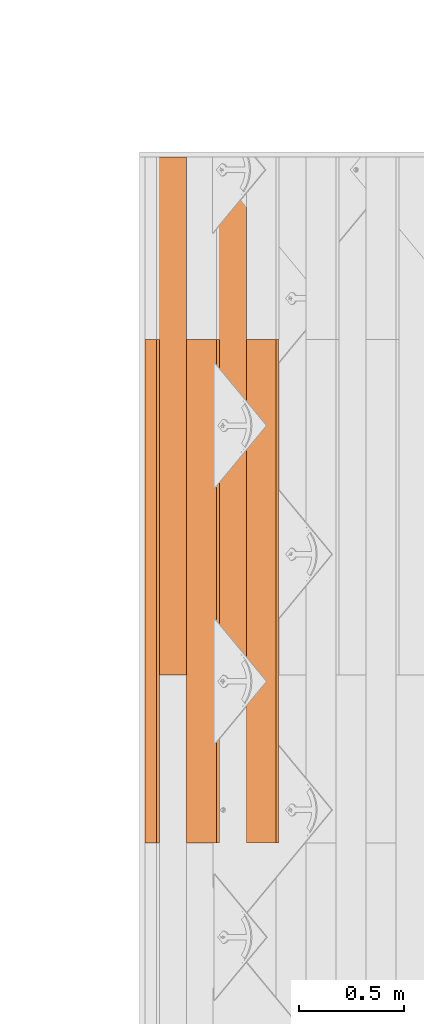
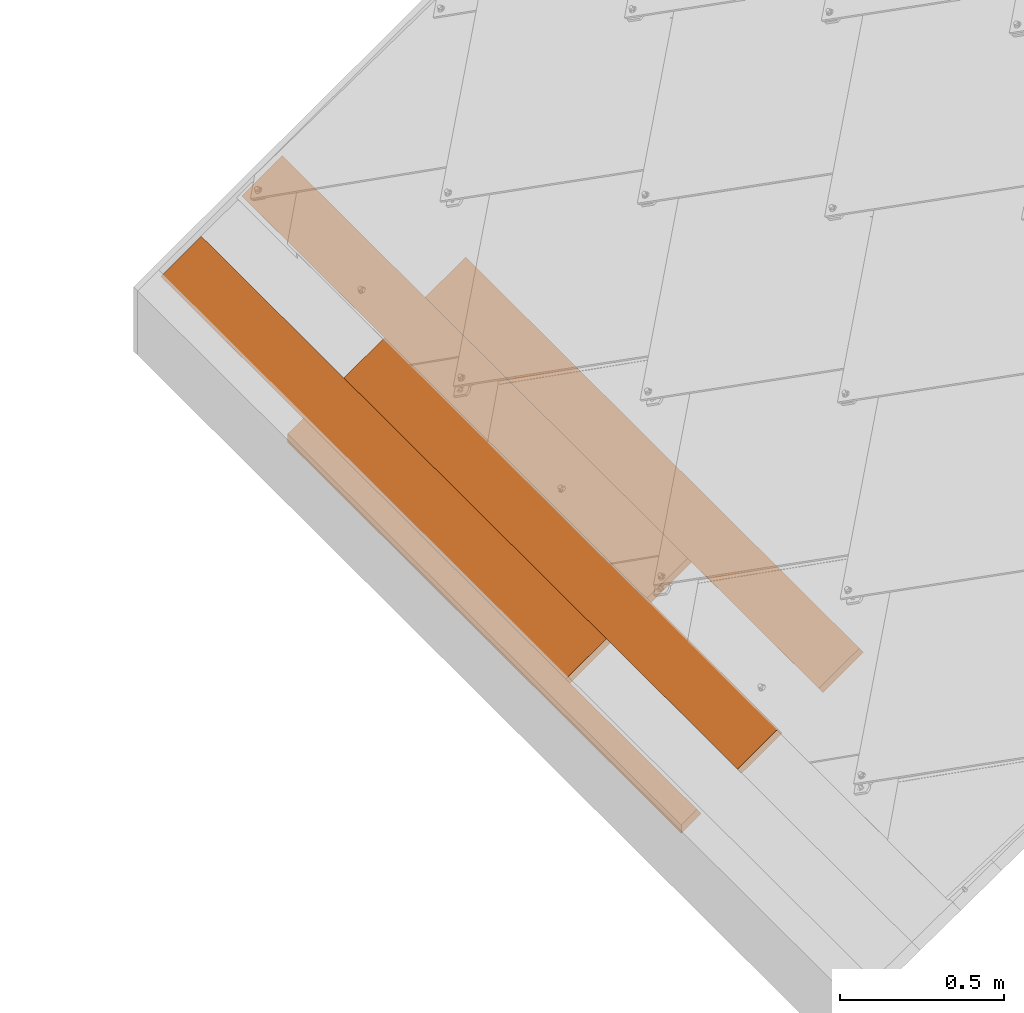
# One storey, part 51 of 133: 5 proxies, 1 element without a shape of its own.
"""IFC2X3 building model written with IfcOpenShell, lengths in millimetres."""

from ifc_helpers import new_model, entity, si_unit, converted_unit, derived_unit, direction, frame, frame_2d, origin, place, context, subcontext, project, spatial, polyline, rectangle, outline, extrude, source, transform, mapped, material, type_object, type_shapes, element, aggregate, save


model = new_model("IFC2X3")

# Units and contexts
model_context = context("Model", 3, precision=0.01, world=origin(), true_north=direction((6.12303176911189e-17, 1.0)))
body_context = subcontext(model_context, "Body", "Model", "MODEL_VIEW")
ifc_project = project(units=[si_unit("LENGTHUNIT", "METRE", prefix="MILLI"), si_unit("AREAUNIT", "SQUARE_METRE"), si_unit("VOLUMEUNIT", "CUBIC_METRE"), converted_unit("PLANEANGLEUNIT", "DEGREE", entity("IfcRatioMeasure", 0.0174532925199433), si_unit("PLANEANGLEUNIT", "RADIAN"), dimensions=[0, 0, 0, 0, 0, 0, 0]), si_unit("MASSUNIT", "GRAM", prefix="KILO"), derived_unit("MASSDENSITYUNIT", [(si_unit("MASSUNIT", "GRAM", prefix="KILO"), 1), (si_unit("LENGTHUNIT", "METRE"), -3)]), si_unit("TIMEUNIT", "SECOND"), si_unit("FREQUENCYUNIT", "HERTZ"), si_unit("THERMODYNAMICTEMPERATUREUNIT", "DEGREE_CELSIUS"), derived_unit("THERMALTRANSMITTANCEUNIT", [(si_unit("MASSUNIT", "GRAM", prefix="KILO"), 1), (si_unit("THERMODYNAMICTEMPERATUREUNIT", "KELVIN"), -1), (si_unit("TIMEUNIT", "SECOND"), -3)]), derived_unit("VOLUMETRICFLOWRATEUNIT", [(si_unit("LENGTHUNIT", "METRE"), 3), (si_unit("TIMEUNIT", "SECOND"), -1)]), si_unit("ELECTRICCURRENTUNIT", "AMPERE"), si_unit("ELECTRICVOLTAGEUNIT", "VOLT"), si_unit("POWERUNIT", "WATT"), si_unit("FORCEUNIT", "NEWTON", prefix="KILO"), si_unit("ILLUMINANCEUNIT", "LUX"), si_unit("LUMINOUSFLUXUNIT", "LUMEN"), si_unit("LUMINOUSINTENSITYUNIT", "CANDELA"), derived_unit("USERDEFINED", [(si_unit("MASSUNIT", "GRAM", prefix="KILO"), -1), (si_unit("LENGTHUNIT", "METRE"), -2), (si_unit("TIMEUNIT", "SECOND"), 3), (si_unit("LUMINOUSFLUXUNIT", "LUMEN"), 1)]), derived_unit("LINEARVELOCITYUNIT", [(si_unit("LENGTHUNIT", "METRE"), 1), (si_unit("TIMEUNIT", "SECOND"), -1)]), si_unit("PRESSUREUNIT", "PASCAL"), derived_unit("USERDEFINED", [(si_unit("LENGTHUNIT", "METRE"), -2), (si_unit("MASSUNIT", "GRAM", prefix="KILO"), 1), (si_unit("TIMEUNIT", "SECOND"), -2)])], contexts=[model_context])

# Site, building, storey
site_placement = place(None, origin())
site = spatial("IfcSite", under=ifc_project, at=site_placement, Name="Default", CompositionType="ELEMENT")
building_placement = place(site_placement, origin())
building = spatial("IfcBuilding", under=site, at=building_placement, CompositionType="ELEMENT")
storey_placement = place(building_placement, origin())
storey = spatial("IfcBuildingStorey", under=building, at=storey_placement, Name="Level 1", CompositionType="ELEMENT", Elevation=0.0)

# Assembly, proxies
assembly_placement = place(storey_placement, origin())
assembly = element("IfcElementAssembly", 1, at=assembly_placement, inside=storey, Name="Structural Framing Assembly:Roof Construction Assembly", ObjectType="Structural Framing Assembly:Roof Construction Assembly", AssemblyPlace="NOTDEFINED", PredefinedType="USERDEFINED")
ifc_material = material(Name="Wood - Generic - Wood For Showcase")
building_element_proxy_type_1 = type_object("IfcBuildingElementProxyType", Name="Structural Framing 15", PredefinedType="NOTDEFINED", material=ifc_material)
shared_shape_1 = source(origin(), body_context, "Body", "SweptSolid", [
    extrude(rectangle(XDim=24.9999999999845, YDim=174.344679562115, at=frame_2d((-1.77635683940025e-13, -4.54747350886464e-13), x_axis=(0.0, 1.0))), frame((1128.20180147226, 1525.55080214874, 2760.23940055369), z_axis=(0.0, 1.0, 0.0), x_axis=(-0.819152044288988, 0.0, -0.573576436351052)), (0.0, 0.0, 1.0), 2399.99999999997),
])
type_shapes(building_element_proxy_type_1, [shared_shape_1])
proxy_1_placement = place(assembly_placement, frame((-3284.74041550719, -870.0, -2300.0)))
proxy_1 = element("IfcBuildingElementProxy", 2, at=proxy_1_placement, type_object=building_element_proxy_type_1, material=ifc_material, Name="Structural Framing 130:Structural Framing 15", ObjectType="Structural Framing 130:Structural Framing 15", context=body_context, shape_type="MappedRepresentation", body=[
    mapped(shared_shape_1, transform((0.0, 0.0, 0.0), scale=1.0)),
])
building_element_proxy_type_2 = type_object("IfcBuildingElementProxyType", Name="Structural Framing 15", PredefinedType="NOTDEFINED", material=ifc_material)
shared_shape_2 = source(origin(), body_context, "Body", "SweptSolid", [
    extrude(rectangle(XDim=24.9999999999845, YDim=174.344679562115, at=frame_2d((-1.77635683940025e-13, -4.54747350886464e-13), x_axis=(0.0, 1.0))), frame((1128.20180147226, 1455.55080214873, 2760.23940055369), z_axis=(0.0, 1.0, 0.0), x_axis=(-0.819152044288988, 0.0, -0.573576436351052)), (0.0, 0.0, 1.0), 2469.99999999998),
])
type_shapes(building_element_proxy_type_2, [shared_shape_2])
proxy_2_placement = place(assembly_placement, frame((-3427.55521618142, 0.0, -2400.0)))
proxy_2 = element("IfcBuildingElementProxy", 3, at=proxy_2_placement, type_object=building_element_proxy_type_2, material=ifc_material, Name="Structural Framing 135:Structural Framing 15", ObjectType="Structural Framing 135:Structural Framing 15", context=body_context, shape_type="MappedRepresentation", body=[
    mapped(shared_shape_2, transform((0.0, 0.0, 0.0), scale=1.0)),
])
building_element_proxy_type_3 = type_object("IfcBuildingElementProxyType", Name="Structural Framing 15", PredefinedType="NOTDEFINED", material=ifc_material)
shared_shape_3 = source(origin(), body_context, "Body", "SweptSolid", [
    extrude(rectangle(XDim=24.9999999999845, YDim=174.344679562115, at=frame_2d((-1.77635683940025e-13, -4.54747350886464e-13), x_axis=(0.0, 1.0))), frame((1128.20180147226, 1525.55080214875, 2760.23940055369), z_axis=(0.0, 1.0, 0.0), x_axis=(-0.819152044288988, 0.0, -0.573576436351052)), (0.0, 0.0, 1.0), 2399.99999999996),
])
type_shapes(building_element_proxy_type_3, [shared_shape_3])
proxy_3_placement = place(assembly_placement, frame((-3570.37001685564, -870.0, -2500.0)))
proxy_3 = element("IfcBuildingElementProxy", 4, at=proxy_3_placement, type_object=building_element_proxy_type_3, material=ifc_material, Name="Structural Framing 140:Structural Framing 15", ObjectType="Structural Framing 140:Structural Framing 15", context=body_context, shape_type="MappedRepresentation", body=[
    mapped(shared_shape_3, transform((0.0, 0.0, 0.0), scale=1.0)),
])
building_element_proxy_type_4 = type_object("IfcBuildingElementProxyType", Name="Structural Framing 15", PredefinedType="NOTDEFINED", material=ifc_material)
shared_shape_4 = source(origin(), body_context, "Body", "SweptSolid", [
    extrude(rectangle(XDim=24.9999999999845, YDim=174.344679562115, at=frame_2d((-1.77635683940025e-13, -4.54747350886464e-13), x_axis=(0.0, 1.0))), frame((1128.20180147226, 1455.55080214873, 2760.23940055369), z_axis=(0.0, 1.0, 0.0), x_axis=(-0.819152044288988, 0.0, -0.573576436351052)), (0.0, 0.0, 1.0), 2469.99999999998),
])
type_shapes(building_element_proxy_type_4, [shared_shape_4])
proxy_4_placement = place(assembly_placement, frame((-3713.18481752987, 0.0, -2600.0)))
proxy_4 = element("IfcBuildingElementProxy", 5, at=proxy_4_placement, type_object=building_element_proxy_type_4, material=ifc_material, Name="Structural Framing 145:Structural Framing 15", ObjectType="Structural Framing 145:Structural Framing 15", context=body_context, shape_type="MappedRepresentation", body=[
    mapped(shared_shape_4, transform((0.0, 0.0, 0.0), scale=1.0)),
])
building_element_proxy_type_5 = type_object("IfcBuildingElementProxyType", Name="Structural Framing 15", PredefinedType="NOTDEFINED", material=ifc_material)
shared_shape_5 = source(origin(), body_context, "Body", "SweptSolid", [
    extrude(outline(polyline([(-38.2231230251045, -12.4999999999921), (46.9757172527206, -12.4999999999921), (29.4705287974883, 12.4999999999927), (-38.2231230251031, 12.4999999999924), (-38.2231230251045, -12.4999999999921)])), frame((-2687.70096575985, -6581.94919785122, 88.315517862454), z_axis=(0.0, 1.0, 0.0), x_axis=(-0.81915204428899, 0.0, -0.573576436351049)), (0.0, 0.0, 1.0), 2399.99999999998),
])
type_shapes(building_element_proxy_type_5, [shared_shape_5])
proxy_5_placement = place(assembly_placement, frame((0.0, 7237.49999999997, 0.0)))
proxy_5 = element("IfcBuildingElementProxy", 6, at=proxy_5_placement, type_object=building_element_proxy_type_5, material=ifc_material, Name="Structural Framing 153:Structural Framing 15", ObjectType="Structural Framing 153:Structural Framing 15", context=body_context, shape_type="MappedRepresentation", body=[
    mapped(shared_shape_5, transform((0.0, 0.0, 0.0), scale=1.0)),
])
aggregate(assembly, [proxy_1, proxy_2, proxy_3, proxy_4, proxy_5])

save(model, "model.ifc")
